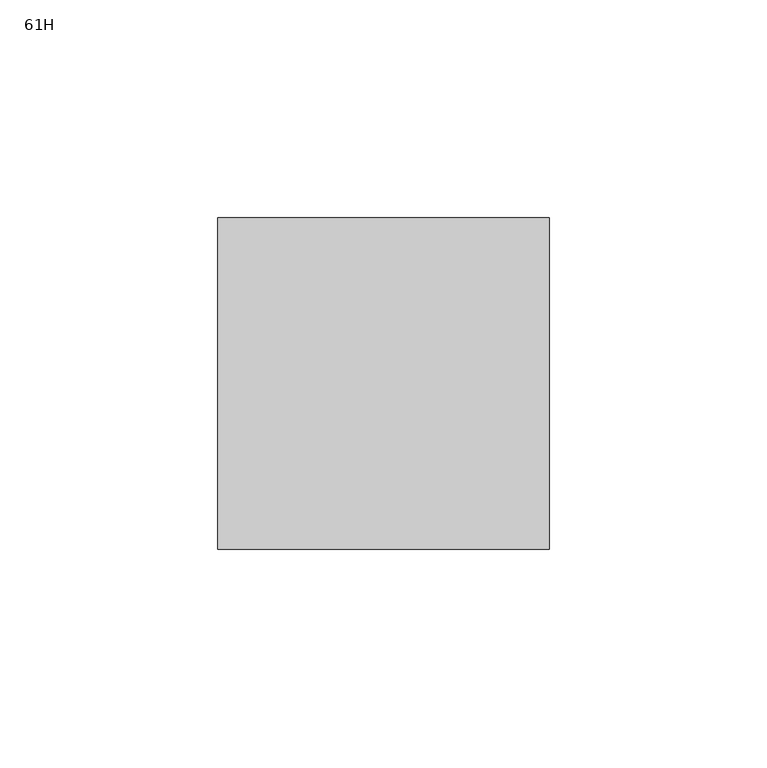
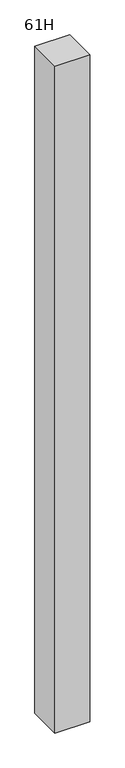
"""IFC4 building model written with IfcOpenShell, lengths in millimetres: furniture geometry, Steelcase - Montage - Power and Cable Pole : 61H."""

from ifc_helpers import new_model, si_unit, frame, origin, place, context, project, spatial, polyline, outline, extrude, source, transform, mapped, element, save


def furniture_61h_1c2a9a15(model_context):
    return source(origin(), model_context, "Body", "SweptSolid", [
        extrude(outline(polyline([(0.0, -76.2), (0.0, 0.0), (76.2, 0.0), (76.2, -76.2), (0.0, -76.2)])), frame((0.0, 0.0, 1120.7750969), z_axis=(0.0, 0.0, 1.0), x_axis=(1.0, 0.0, 0.0)), (0.0, 0.0, 1.0), 1549.4),
    ])


if __name__ == "__main__":
    model = new_model("IFC4")
    model_context = context("Model", 3, world=origin())
    ifc_project = project(units=[si_unit("LENGTHUNIT", "METRE", prefix="MILLI")], contexts=[model_context])
    site = spatial("IfcSite", under=ifc_project)
    building = spatial("IfcBuilding", under=site)
    placement = place(None, origin())
    furniture_61h_shape = furniture_61h_1c2a9a15(model_context)
    element("IfcFurniture", 1, ObjectType="Steelcase - Montage - Power and Cable Pole : 61H", at=placement, inside=building, context=model_context, shape_type="MappedRepresentation", body=[
        mapped(furniture_61h_shape, transform((0.0, 0.0, 0.0), x_axis=(1.0, 0.0, 0.0), y_axis=(0.0, 1.0, 0.0), z_axis=(0.0, 0.0, 1.0))),
    ])
    save(model, "model.ifc")
